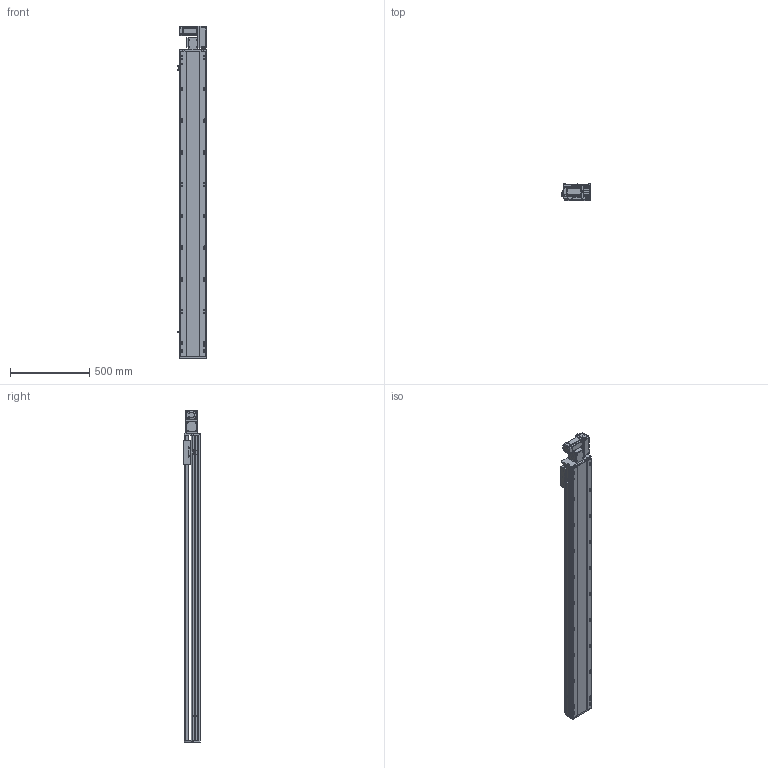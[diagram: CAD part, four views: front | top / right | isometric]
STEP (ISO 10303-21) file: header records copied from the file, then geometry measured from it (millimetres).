
FILE_DESCRIPTION (( 'STEP AP214' ), '1' );
FILE_NAME ('RTB17S-XX-1650-R-M40-C4.STEP', '2025-12-11T07:41:46', ( '' ), ( '' ), 'SwSTEP 2.0', 'SolidWorks 2018', '' );
FILE_SCHEMA (( 'AUTOMOTIVE_DESIGN' ));
Length unit declared in the file: millimetre
Products named in the file (14): RTH13-BL-012覜茼え俋离^RTB17S-XX-XX-R-M40-C4; RTB17S-XX-1650-R-M40-C4; RTB17S-L-004佪裝蹟譫蟀諉釱^RTB17S-XX-XX-R-M40-C4; RTB14-L-018P^RTB17S-R-々湍釱蚾饜-400W_RTB17S-XX-XX-R-M40-C4; 400W侜督萇儂^RTB17S-XX-XX-R-M40-C4; RTB14-L-017P^RTB17S-R-々湍釱蚾饜-400W_RTB17S-XX-XX-R-M40-C4; RTB17S-L-001耜醱啣^RTB17S-XX-XX-R-M40-C4; OMRON EE-SX672 传感器^RTB17S-XX-XX-R-M40-C4; RTB14-L-008-M20--萇儂啣^RTB17S-R-々湍釱蚾饜-400W_RTB17S-XX-XX-R-M40-C4; RTB17S-L-007奻裔^RTB17S-XX-XX-R-M40-C4; RTB17-R-011菁釱^RTB17S-XX-XX-R-M40-C4; RTB14-L-005P--轴承塑胶压盖^RTB17S-R-皮带座装配-400W_RTB17S-XX-XX-R-M40-C4; RTB17S-R-々湍釱蚾饜-400W^RTB17S-XX-XX-R-M40-C4; RTB17S-L-014-T20--々湍釱^RTB17S-R-々湍釱蚾饜-400W_RTB17S-XX-XX-R-M40-C4
Assembly tree (16 placements, depth 3):
  RTB17S-XX-1650-R-M40-C4
    RTB17-R-011菁釱^RTB17S-XX-XX-R-M40-C4
    RTB17S-L-007奻裔^RTB17S-XX-XX-R-M40-C4
    OMRON EE-SX672 传感器^RTB17S-XX-XX-R-M40-C4  x3
    RTB17S-L-001耜醱啣^RTB17S-XX-XX-R-M40-C4
    400W侜督萇儂^RTB17S-XX-XX-R-M40-C4
    RTB17S-L-004佪裝蹟譫蟀諉釱^RTB17S-XX-XX-R-M40-C4
    RTH13-BL-012覜茼え俋离^RTB17S-XX-XX-R-M40-C4
    RTB17S-R-々湍釱蚾饜-400W^RTB17S-XX-XX-R-M40-C4
      RTB17S-L-014-T20--々湍釱^RTB17S-R-々湍釱蚾饜-400W_RTB17S-XX-XX-R-M40-C4
      RTB14-L-005P--轴承塑胶压盖^RTB17S-R-皮带座装配-400W_RTB17S-XX-XX-R-M40-C4
      RTB14-L-008-M20--萇儂啣^RTB17S-R-々湍釱蚾饜-400W_RTB17S-XX-XX-R-M40-C4
      RTB14-L-017P^RTB17S-R-々湍釱蚾饜-400W_RTB17S-XX-XX-R-M40-C4  x2
      RTB14-L-018P^RTB17S-R-々湍釱蚾饜-400W_RTB17S-XX-XX-R-M40-C4
Bounding box: 183.5 x 108 x 2091 mm (x, y, z)
Volume: 17669812 mm3; surface area: 2077902.9 mm2
Topology: 15 solids, 15 shells, 2269 faces, 6303 edges, 4113 vertices
Faces by surface type: plane 1076, cylinder 745, bspline 301, cone 139, torus 8
Entity records: 65705 total; most frequent: CARTESIAN_POINT 18508, ORIENTED_EDGE 9450, DIRECTION 8756, EDGE_CURVE 4725, VERTEX_POINT 3101, AXIS2_PLACEMENT_3D 3031, VECTOR 2694, LINE 2694
